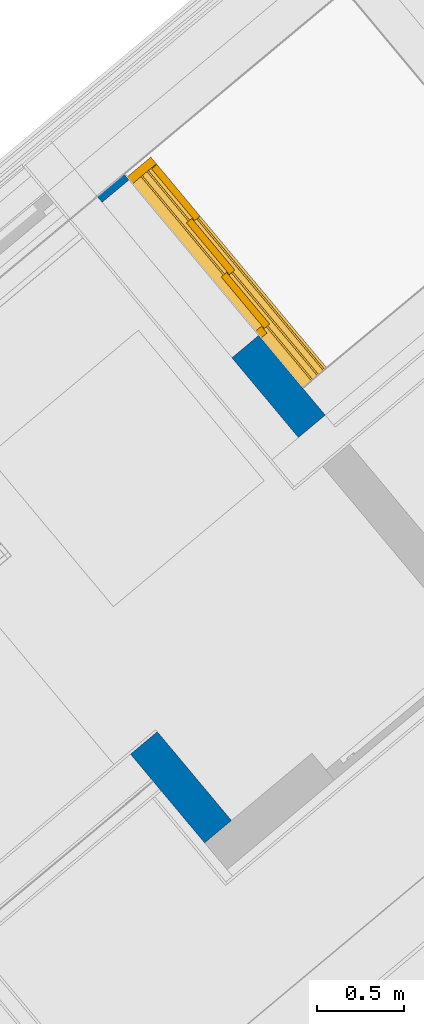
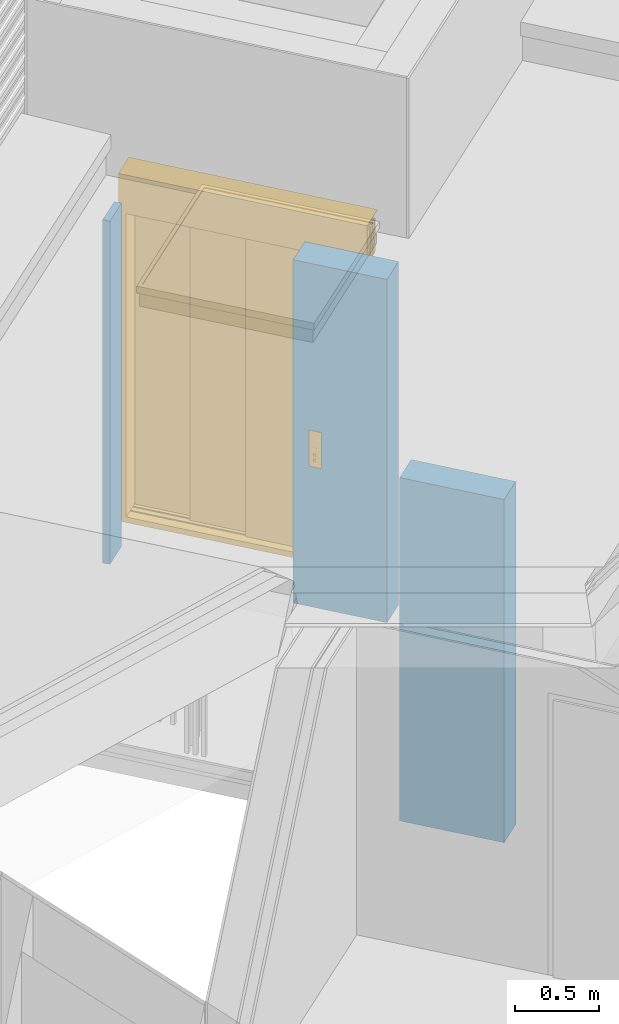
# One storey, part 5 of 50: 2 walls, 1 door, 1 opening.
"""IFC4 building model written with IfcOpenShell, lengths in metres."""

from ifc_helpers import new_model, entity, si_unit, converted_unit, derived_unit, direction, frame, origin_with_axes, place, context, subcontext, project, spatial, polygons, source, transform, mapped, material, type_object, element, fill, save


model = new_model("IFC4")

# Units and contexts
model_context = context("Model", 3, precision=1e-05, world=origin_with_axes(), true_north=direction((0.0, 1.0)))
body_context = subcontext(model_context, "Body", "Model", "MODEL_VIEW")
ifc_project = project(units=[si_unit("LENGTHUNIT", "METRE"), si_unit("AREAUNIT", "SQUARE_METRE"), si_unit("VOLUMEUNIT", "CUBIC_METRE"), converted_unit("PLANEANGLEUNIT", "DEGREE", entity("IfcPlaneAngleMeasure", 0.0174532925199), si_unit("PLANEANGLEUNIT", "RADIAN"), dimensions=[0, 0, 0, 0, 0, 0, 0]), converted_unit("TIMEUNIT", "Year", entity("IfcTimeMeasure", 31556926.0), si_unit("TIMEUNIT", "SECOND"), dimensions=[0, 0, 1, 0, 0, 0, 0]), si_unit("MASSUNIT", "GRAM", prefix="KILO"), si_unit("THERMODYNAMICTEMPERATUREUNIT", "DEGREE_CELSIUS"), si_unit("LUMINOUSINTENSITYUNIT", "LUMEN"), si_unit("ENERGYUNIT", "JOULE", prefix="MEGA"), derived_unit("THERMALCONDUCTANCEUNIT", [(si_unit("POWERUNIT", "WATT"), 1), (si_unit("LENGTHUNIT", "METRE"), -1), (si_unit("THERMODYNAMICTEMPERATUREUNIT", "KELVIN"), -1)]), derived_unit("SPECIFICHEATCAPACITYUNIT", [(si_unit("ENERGYUNIT", "JOULE"), 1), (si_unit("MASSUNIT", "GRAM", prefix="KILO"), -1), (si_unit("THERMODYNAMICTEMPERATUREUNIT", "KELVIN"), -1)]), derived_unit("MASSDENSITYUNIT", [(si_unit("MASSUNIT", "GRAM", prefix="KILO"), 1), (si_unit("VOLUMEUNIT", "CUBIC_METRE"), -1)])], contexts=[model_context])

# Site, building, storey
site_placement = place(None, frame((-0.00153261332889, -0.00661245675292, 0.0), z_axis=(0.0, 0.0, 1.0), x_axis=(1.0, 0.0, 0.0)))
site = spatial("IfcSite", under=ifc_project, at=site_placement, Name="Gelände", CompositionType="ELEMENT")
building_placement = place(site_placement, origin_with_axes())
building = spatial("IfcBuilding", under=site, at=building_placement, Name="Gebäude", CompositionType="ELEMENT")
storey_placement = place(building_placement, frame((0.0, 0.0, 8.66), z_axis=(0.0, 0.0, 1.0), x_axis=(1.0, 0.0, 0.0)))
storey = spatial("IfcBuildingStorey", under=building, at=storey_placement, Name="DG2", CompositionType="ELEMENT", Elevation=8.66)

# Wall
ifc_material = material(Name="Stahlbeton Wand")
wall_type = type_object("IfcWallType", Name="Stahlbeton Wand 200", PredefinedType="NOTDEFINED")
wall_1_placement = place(storey_placement, frame((1.08154200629, 22.1567813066, 0.0), z_axis=(0.0, 0.0, 1.0), x_axis=(-0.641209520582, 0.767365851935, 0.0)))
element("IfcWall", 1, at=wall_1_placement, inside=storey, type_object=wall_type, material=ifc_material, Name="Wand-003", PredefinedType="NOTDEFINED", context=body_context, shape_type="Tessellation", body=[
    polygons([(0.862227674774, 0.2, 0.0), (0.862227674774, 0.2, 2.49), (0.862228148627, 0.0, 2.49), (0.862228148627, 0.0, 0.0), (0.200077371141, 0.2, 0.0), (0.200077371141, 0.2, 2.49), (0.20000001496, 0.0, 2.49), (0.20000001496, 0.0, 0.0)], [[[1, 2, 3, 4]], [[2, 1, 5, 6]], [[3, 2, 6, 7]], [[7, 8, 4, 3]], [[1, 4, 8, 5]], [[6, 5, 8, 7]]], closed=True),
])

# Space
space_placement = place(storey_placement, frame((-0.969275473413, 24.9166386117, 0.22), z_axis=(0.0, 0.0, 1.0), x_axis=(0.641209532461, -0.767365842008, 0.0)))
space = spatial("IfcSpace", under=storey, at=space_placement, CompositionType="ELEMENT", PredefinedType="NOTDEFINED")

# Wall, opening, door
wall_2_placement = place(space_placement, frame((1.79533499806, 1.7051186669, -0.22), z_axis=(0.0, 0.0, 1.0), x_axis=(-0.999999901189, 0.000444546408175, 0.0)))
wall_2 = element("IfcWall", 2, at=wall_2_placement, inside=space, type_object=wall_type, material=ifc_material, Name="Wand-003", PredefinedType="NOTDEFINED", context=body_context, shape_type="Tessellation", body=[
    polygons([(1.75419055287, 0.2, 2.49), (1.75419055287, 0.0, 2.49), (1.80033514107, 0.0, 2.49), (1.80024623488, 0.2, 2.49), (1.75419055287, 0.0, 0.22), (1.75419055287, 0.2, 0.22), (1.75419055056, 0.0, 0.0), (1.80033514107, 0.0, 0.0), (1.80024623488, 0.2, 0.0), (1.75419055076, 0.2, 0.0)], [[[1, 2, 3, 4]], [[5, 2, 1, 6]], [[2, 5, 7, 8, 3]], [[4, 3, 8, 9]], [[6, 1, 4, 9, 10]], [[5, 6, 10, 7]], [[7, 10, 9, 8]]], closed=True),
    polygons([(0.594190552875, 0.0, 0.22), (0.594190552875, 0.0, 2.49), (0.0, 0.0, 2.49), (0.0, 0.0, 0.0), (0.594190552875, 0.0, 0.0), (0.594190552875, 0.2, 2.49), (0.594190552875, 0.2, 0.22), (0.0, 0.2, 2.49), (0.0, 0.2, 0.0), (0.594190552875, 0.2, 0.0)], [[[1, 2, 3, 4, 5]], [[6, 2, 1, 7]], [[2, 6, 8, 3]], [[4, 3, 8, 9]], [[10, 5, 4, 9]], [[7, 1, 5, 10]], [[6, 7, 10, 9, 8]]], closed=True),
])
opening_placement = place(wall_2_placement, frame((1.17419055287, 0.0, 0.22), z_axis=(0.0, 0.0, 1.0), x_axis=(1.0, 0.0, 0.0)))
opening = element("IfcOpeningElement", 3, at=opening_placement, cuts=wall_2, Name="Tür-003", context=body_context, identifier="Reference", shape_type="Tessellation", body=[
    polygons([(0.58, 1.2908631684, 2.35), (0.58, 1.2908631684, -0.22), (-0.58, 1.2908631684, -0.22), (-0.58, 1.2908631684, 2.35), (0.58, -1.0908631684, 2.35), (0.58, -1.0908631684, -0.22), (-0.58, -1.0908631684, -0.22), (-0.58, -1.0908631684, 2.35)], [[[1, 2, 3, 4]], [[5, 6, 2, 1]], [[6, 7, 3, 2]], [[7, 8, 4, 3]], [[8, 5, 1, 4]], [[7, 6, 5, 8]]], closed=True),
])
door_type = type_object("IfcDoorType", Name="Teleskoptür 26", OperationType="DOUBLE_DOOR_SLIDING", PredefinedType="NOTDEFINED")
shared_shape = source(origin_with_axes(), body_context, "Body", "Tessellation", [
    polygons([(0.975, 0.135, 2.2), (-0.6, 0.135, 2.2), (-0.6, 0.135, 2.238), (0.975, 0.135, 2.238), (0.975, 0.0, 2.2), (-0.6, 0.0, 2.2), (-0.6, 0.0, 2.48), (-0.6, 0.18, 2.48), (-0.6, 0.18, 2.477), (-0.6, 0.003, 2.477), (-0.6, 0.003, 2.203), (-0.6, 0.132, 2.203), (-0.6, 0.132, 2.238), (0.975, 0.132, 2.238), (0.975, 0.132, 2.203), (0.975, 0.003, 2.203), (0.975, 0.003, 2.477), (0.975, 0.18, 2.477), (0.975, 0.18, 2.48), (0.975, 0.0, 2.48)], [[[1, 2, 3, 4]], [[5, 6, 2, 1]], [[2, 6, 7, 8, 9, 10, 11, 12, 13, 3]], [[4, 3, 13, 14]], [[1, 4, 14, 15, 16, 17, 18, 19, 20, 5]], [[20, 7, 6, 5]], [[19, 8, 7, 20]], [[18, 9, 8, 19]], [[17, 10, 9, 18]], [[16, 11, 10, 17]], [[15, 12, 11, 16]], [[14, 13, 12, 15]]], closed=True),
    polygons([(0.975, 0.05, 2.203), (-0.6, 0.05, 2.203), (-0.6, 0.055, 2.203), (0.975, 0.055, 2.203), (0.975, 0.05, 2.44), (-0.6, 0.05, 2.44), (-0.6, 0.055, 2.44), (0.975, 0.055, 2.44)], [[[1, 2, 3, 4]], [[5, 6, 2, 1]], [[2, 6, 7, 3]], [[4, 3, 7, 8]], [[1, 4, 8, 5]], [[8, 7, 6, 5]]], closed=True),
    polygons([(0.975, 0.05, 2.43), (-0.6, 0.05, 2.43), (-0.6, 0.04, 2.43), (0.975, 0.04, 2.43), (0.975, 0.05, 2.37), (-0.6, 0.05, 2.37), (-0.6, 0.04, 2.37), (0.975, 0.04, 2.37)], [[[1, 2, 3, 4]], [[5, 6, 2, 1]], [[2, 6, 7, 3]], [[4, 3, 7, 8]], [[1, 4, 8, 5]], [[8, 7, 6, 5]]], closed=True),
    polygons([(0.975, 0.05, 2.3), (-0.6, 0.05, 2.3), (-0.6, 0.04, 2.3), (0.975, 0.04, 2.3), (0.975, 0.05, 2.26), (-0.6, 0.05, 2.26), (-0.6, 0.04, 2.26), (0.975, 0.04, 2.26)], [[[1, 2, 3, 4]], [[5, 6, 2, 1]], [[2, 6, 7, 3]], [[4, 3, 7, 8]], [[1, 4, 8, 5]], [[8, 7, 6, 5]]], closed=True),
    polygons([(0.975, 0.05, 2.37), (-0.6, 0.05, 2.37), (-0.6, 0.03, 2.37), (0.975, 0.03, 2.37), (0.975, 0.05, 2.3), (-0.6, 0.05, 2.3), (-0.6, 0.03, 2.3), (0.975, 0.03, 2.3)], [[[1, 2, 3, 4]], [[5, 6, 2, 1]], [[2, 6, 7, 3]], [[4, 3, 7, 8]], [[1, 4, 8, 5]], [[8, 7, 6, 5]]], closed=True),
    polygons([(0.975, 0.095, 2.203), (-0.6, 0.095, 2.203), (-0.6, 0.1, 2.203), (0.975, 0.1, 2.203), (0.975, 0.095, 2.44), (-0.6, 0.095, 2.44), (-0.6, 0.1, 2.44), (0.975, 0.1, 2.44)], [[[1, 2, 3, 4]], [[5, 6, 2, 1]], [[2, 6, 7, 3]], [[4, 3, 7, 8]], [[1, 4, 8, 5]], [[8, 7, 6, 5]]], closed=True),
    polygons([(0.975, 0.095, 2.43), (-0.6, 0.095, 2.43), (-0.6, 0.085, 2.43), (0.975, 0.085, 2.43), (0.975, 0.095, 2.37), (-0.6, 0.095, 2.37), (-0.6, 0.085, 2.37), (0.975, 0.085, 2.37)], [[[1, 2, 3, 4]], [[5, 6, 2, 1]], [[2, 6, 7, 3]], [[4, 3, 7, 8]], [[1, 4, 8, 5]], [[8, 7, 6, 5]]], closed=True),
    polygons([(0.975, 0.095, 2.3), (-0.6, 0.095, 2.3), (-0.6, 0.085, 2.3), (0.975, 0.085, 2.3), (0.975, 0.095, 2.26), (-0.6, 0.095, 2.26), (-0.6, 0.085, 2.26), (0.975, 0.085, 2.26)], [[[1, 2, 3, 4]], [[5, 6, 2, 1]], [[2, 6, 7, 3]], [[4, 3, 7, 8]], [[1, 4, 8, 5]], [[8, 7, 6, 5]]], closed=True),
    polygons([(0.975, 0.095, 2.37), (-0.6, 0.095, 2.37), (-0.6, 0.075, 2.37), (0.975, 0.075, 2.37), (0.975, 0.095, 2.3), (-0.6, 0.095, 2.3), (-0.6, 0.075, 2.3), (0.975, 0.075, 2.3)], [[[1, 2, 3, 4]], [[5, 6, 2, 1]], [[2, 6, 7, 3]], [[4, 3, 7, 8]], [[1, 4, 8, 5]], [[8, 7, 6, 5]]], closed=True),
    polygons([(0.975, 0.14, 2.203), (-0.6, 0.14, 2.203), (-0.6, 0.145, 2.203), (0.975, 0.145, 2.203), (0.975, 0.14, 2.44), (-0.6, 0.14, 2.44), (-0.6, 0.145, 2.44), (0.975, 0.145, 2.44)], [[[1, 2, 3, 4]], [[5, 6, 2, 1]], [[2, 6, 7, 3]], [[4, 3, 7, 8]], [[1, 4, 8, 5]], [[8, 7, 6, 5]]], closed=True),
    polygons([(0.975, 0.14, 2.43), (-0.6, 0.14, 2.43), (-0.6, 0.13, 2.43), (0.975, 0.13, 2.43), (0.975, 0.14, 2.37), (-0.6, 0.14, 2.37), (-0.6, 0.13, 2.37), (0.975, 0.13, 2.37)], [[[1, 2, 3, 4]], [[5, 6, 2, 1]], [[2, 6, 7, 3]], [[4, 3, 7, 8]], [[1, 4, 8, 5]], [[8, 7, 6, 5]]], closed=True),
    polygons([(0.975, 0.14, 2.3), (-0.6, 0.14, 2.3), (-0.6, 0.13, 2.3), (0.975, 0.13, 2.3), (0.975, 0.14, 2.26), (-0.6, 0.14, 2.26), (-0.6, 0.13, 2.26), (0.975, 0.13, 2.26)], [[[1, 2, 3, 4]], [[5, 6, 2, 1]], [[2, 6, 7, 3]], [[4, 3, 7, 8]], [[1, 4, 8, 5]], [[8, 7, 6, 5]]], closed=True),
    polygons([(0.975, 0.14, 2.37), (-0.6, 0.14, 2.37), (-0.6, 0.12, 2.37), (0.975, 0.12, 2.37), (0.975, 0.14, 2.3), (-0.6, 0.14, 2.3), (-0.6, 0.12, 2.3), (0.975, 0.12, 2.3)], [[[1, 2, 3, 4]], [[5, 6, 2, 1]], [[2, 6, 7, 3]], [[4, 3, 7, 8]], [[1, 4, 8, 5]], [[8, 7, 6, 5]]], closed=True),
    polygons([(0.975, 0.0, 0.0), (-0.6, 0.0, 0.0), (-0.6, 0.0, -0.04), (0.975, 0.0, -0.04), (0.975, 0.065, 0.0), (-0.6, 0.065, 0.0), (-0.6, 0.065, -0.01), (-0.6, 0.075, -0.01), (-0.6, 0.075, 0.0), (-0.6, 0.11, 0.0), (-0.6, 0.11, -0.01), (-0.6, 0.12, -0.01), (-0.6, 0.12, 0.0), (-0.6, 0.155, 0.0), (-0.6, 0.155, -0.01), (-0.6, 0.165, -0.01), (-0.6, 0.165, 0.0), (-0.6, 0.18, 0.0), (-0.6, 0.18, -0.04), (0.975, 0.18, -0.04), (0.975, 0.18, 0.0), (0.975, 0.165, 0.0), (0.975, 0.165, -0.01), (0.975, 0.155, -0.01), (0.975, 0.155, 0.0), (0.975, 0.12, 0.0), (0.975, 0.12, -0.01), (0.975, 0.11, -0.01), (0.975, 0.11, 0.0), (0.975, 0.075, 0.0), (0.975, 0.075, -0.01), (0.975, 0.065, -0.01)], [[[1, 2, 3, 4]], [[5, 6, 2, 1]], [[2, 6, 7, 8, 9, 10, 11, 12, 13, 14, 15, 16, 17, 18, 19, 3]], [[4, 3, 19, 20]], [[1, 4, 20, 21, 22, 23, 24, 25, 26, 27, 28, 29, 30, 31, 32, 5]], [[32, 7, 6, 5]], [[31, 8, 7, 32]], [[30, 9, 8, 31]], [[29, 10, 9, 30]], [[28, 11, 10, 29]], [[27, 12, 11, 28]], [[26, 13, 12, 27]], [[25, 14, 13, 26]], [[24, 15, 14, 25]], [[23, 16, 15, 24]], [[22, 17, 16, 23]], [[21, 18, 17, 22]], [[20, 19, 18, 21]]], closed=True),
    polygons([(0.55, 0.0, 0.0), (0.55, 0.0, 2.2), (0.55, 0.045, 2.2), (0.55, 0.045, 0.0), (0.6, 0.0, 0.0), (0.6, 0.0, 2.2), (0.6, 0.045, 2.2), (0.6, 0.045, 0.0)], [[[1, 2, 3, 4]], [[5, 6, 2, 1]], [[2, 6, 7, 3]], [[4, 3, 7, 8]], [[1, 4, 8, 5]], [[8, 7, 6, 5]]], closed=True),
    polygons([(-0.6, 0.0, 0.0), (-0.6, 0.0, 2.2), (-0.6, 0.18, 2.2), (-0.6, 0.18, 0.0), (-0.55, 0.0, 0.0), (-0.55, 0.0, 2.2), (-0.55, 0.18, 2.2), (-0.55, 0.18, 0.0)], [[[1, 2, 3, 4]], [[5, 6, 2, 1]], [[2, 6, 7, 3]], [[4, 3, 7, 8]], [[1, 4, 8, 5]], [[8, 7, 6, 5]]], closed=True),
    polygons([(0.68, -0.2, 0.8), (0.76, -0.2, 0.8), (0.76, -0.203, 0.8), (0.68, -0.203, 0.8), (0.68, -0.2, 1.06), (0.76, -0.2, 1.06), (0.69, -0.2, 1.03), (0.69, -0.2, 0.94), (0.75, -0.2, 0.94), (0.75, -0.2, 1.03), (0.71, -0.2, 0.84), (0.73, -0.2, 0.84), (0.73, -0.2, 0.86), (0.71, -0.2, 0.86), (0.71, -0.2, 0.88), (0.73, -0.2, 0.88), (0.73, -0.2, 0.9), (0.71, -0.2, 0.9), (0.76, -0.203, 1.06), (0.68, -0.203, 1.06), (0.69, -0.203, 1.03), (0.75, -0.203, 1.03), (0.75, -0.203, 0.94), (0.69, -0.203, 0.94), (0.71, -0.203, 0.84), (0.71, -0.203, 0.86), (0.73, -0.203, 0.86), (0.73, -0.203, 0.84), (0.71, -0.203, 0.88), (0.71, -0.203, 0.9), (0.73, -0.203, 0.9), (0.73, -0.203, 0.88)], [[[1, 2, 3, 4]], [[1, 5, 6, 2], [7, 8, 9, 10], [11, 12, 13, 14], [15, 16, 17, 18]], [[2, 6, 19, 3]], [[4, 3, 19, 20], [21, 22, 23, 24], [25, 26, 27, 28], [29, 30, 31, 32]], [[5, 1, 4, 20]], [[6, 5, 20, 19]], [[8, 7, 21, 24]], [[9, 8, 24, 23]], [[10, 9, 23, 22]], [[7, 10, 22, 21]], [[12, 11, 25, 28]], [[13, 12, 28, 27]], [[14, 13, 27, 26]], [[11, 14, 26, 25]], [[16, 15, 29, 32]], [[17, 16, 32, 31]], [[18, 17, 31, 30]], [[15, 18, 30, 29]]], closed=True),
    polygons([(0.69, -0.2, 0.94), (0.75, -0.2, 0.94), (0.75, -0.2025, 0.94), (0.69, -0.2025, 0.94), (0.69, -0.2, 1.03), (0.75, -0.2, 1.03), (0.75, -0.2025, 1.03), (0.69, -0.2025, 1.03)], [[[1, 2, 3, 4]], [[1, 5, 6, 2]], [[2, 6, 7, 3]], [[4, 3, 7, 8]], [[5, 1, 4, 8]], [[6, 5, 8, 7]]], closed=True),
    polygons([(0.704, -0.203, 1.005), (0.71, -0.203, 1.021), (0.716, -0.203, 1.005)], [[[1, 2, 3]]], closed=False),
    polygons([(0.73, -0.203, 1.005), (0.724, -0.203, 1.021), (0.736, -0.203, 1.021)], [[[1, 2, 3]]], closed=False),
    polygons([(0.717272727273, -0.2035, 0.982), (0.717272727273, -0.2035, 0.971636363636), (0.715909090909, -0.2035, 0.970272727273), (0.714545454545, -0.2035, 0.971636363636), (0.714545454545, -0.2035, 0.982), (0.715909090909, -0.2035, 0.983363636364)], [[[1, 2, 3, 4, 5, 6]]], closed=False),
    polygons([(0.717272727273, -0.2035, 0.968363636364), (0.717272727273, -0.2035, 0.958), (0.715909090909, -0.2035, 0.956636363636), (0.714545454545, -0.2035, 0.958), (0.714545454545, -0.2035, 0.968363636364), (0.715909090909, -0.2035, 0.969727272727)], [[[1, 2, 3, 4, 5, 6]]], closed=False),
    polygons([(0.736090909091, -0.2035, 0.982272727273), (0.725727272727, -0.2035, 0.982272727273), (0.724363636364, -0.2035, 0.983636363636), (0.725727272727, -0.2035, 0.985), (0.736090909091, -0.2035, 0.985), (0.737454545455, -0.2035, 0.983636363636)], [[[1, 2, 3, 4, 5, 6]]], closed=False),
    polygons([(0.739090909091, -0.2035, 0.982), (0.739090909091, -0.2035, 0.971636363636), (0.737727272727, -0.2035, 0.970272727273), (0.736363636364, -0.2035, 0.971636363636), (0.736363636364, -0.2035, 0.982), (0.737727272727, -0.2035, 0.983363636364)], [[[1, 2, 3, 4, 5, 6]]], closed=False),
    polygons([(0.736090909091, -0.2035, 0.968636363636), (0.725727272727, -0.2035, 0.968636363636), (0.724363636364, -0.2035, 0.97), (0.725727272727, -0.2035, 0.971363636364), (0.736090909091, -0.2035, 0.971363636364), (0.737454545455, -0.2035, 0.97)], [[[1, 2, 3, 4, 5, 6]]], closed=False),
    polygons([(0.725454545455, -0.2035, 0.968363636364), (0.725454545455, -0.2035, 0.958), (0.724090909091, -0.2035, 0.956636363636), (0.722727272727, -0.2035, 0.958), (0.722727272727, -0.2035, 0.968363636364), (0.724090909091, -0.2035, 0.969727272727)], [[[1, 2, 3, 4, 5, 6]]], closed=False),
    polygons([(0.736090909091, -0.2035, 0.955), (0.725727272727, -0.2035, 0.955), (0.724363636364, -0.2035, 0.956363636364), (0.725727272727, -0.2035, 0.957727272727), (0.736090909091, -0.2035, 0.957727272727), (0.737454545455, -0.2035, 0.956363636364)], [[[1, 2, 3, 4, 5, 6]]], closed=False),
    polygons([(0.73, -0.2, 0.84), (0.71, -0.2, 0.84), (0.71, -0.2, 0.86), (0.73, -0.2, 0.86), (0.730000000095, -0.2015, 0.83999999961), (0.70999999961, -0.2015, 0.83999999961), (0.70999999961, -0.2015, 0.860000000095), (0.730000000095, -0.2015, 0.860000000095), (0.728599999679, -0.202900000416, 0.841400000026), (0.711400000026, -0.202900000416, 0.841400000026), (0.711400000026, -0.202900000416, 0.858599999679), (0.728599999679, -0.202900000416, 0.858599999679)], [[[1, 2, 3, 4]], [[2, 1, 5, 6]], [[3, 2, 6, 7]], [[4, 3, 7, 8]], [[1, 4, 8, 5]], [[6, 5, 9, 10]], [[7, 6, 10, 11]], [[8, 7, 11, 12]], [[5, 8, 12, 9]], [[11, 10, 9, 12]]], closed=True),
    polygons([(0.725, -0.203, 0.855), (0.72, -0.203, 0.844), (0.715, -0.203, 0.855)], [[[1, 2, 3]]], closed=False),
    polygons([(0.73, -0.2, 0.88), (0.71, -0.2, 0.88), (0.71, -0.2, 0.9), (0.73, -0.2, 0.9), (0.730000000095, -0.2015, 0.87999999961), (0.70999999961, -0.2015, 0.87999999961), (0.70999999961, -0.2015, 0.900000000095), (0.730000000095, -0.2015, 0.900000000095), (0.728599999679, -0.202900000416, 0.881400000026), (0.711400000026, -0.202900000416, 0.881400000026), (0.711400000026, -0.202900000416, 0.898599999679), (0.728599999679, -0.202900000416, 0.898599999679)], [[[1, 2, 3, 4]], [[2, 1, 5, 6]], [[3, 2, 6, 7]], [[4, 3, 7, 8]], [[1, 4, 8, 5]], [[6, 5, 9, 10]], [[7, 6, 10, 11]], [[8, 7, 11, 12]], [[5, 8, 12, 9]], [[11, 10, 9, 12]]], closed=True),
    polygons([(0.725, -0.203, 0.885), (0.715, -0.203, 0.885), (0.72, -0.203, 0.896)], [[[1, 2, 3]]], closed=False),
    polygons([(-0.16, 0.14, 0.003), (-0.545, 0.14, 0.003), (-0.545, 0.18, 0.003), (-0.16, 0.18, 0.003), (-0.16, 0.14, 2.2), (-0.545, 0.14, 2.2), (-0.545, 0.18, 2.2), (-0.16, 0.18, 2.2)], [[[1, 2, 3, 4]], [[1, 5, 6, 2]], [[2, 6, 7, 3]], [[4, 3, 7, 8]], [[5, 1, 4, 8]], [[6, 5, 8, 7]]], closed=True),
    polygons([(0.205, 0.095, 0.003), (-0.18, 0.095, 0.003), (-0.18, 0.135, 0.003), (0.205, 0.135, 0.003), (0.205, 0.095, 2.2), (-0.18, 0.095, 2.2), (-0.18, 0.135, 2.2), (0.205, 0.135, 2.2)], [[[1, 2, 3, 4]], [[1, 5, 6, 2]], [[2, 6, 7, 3]], [[4, 3, 7, 8]], [[5, 1, 4, 8]], [[6, 5, 8, 7]]], closed=True),
    polygons([(0.57, 0.05, 0.003), (0.185, 0.05, 0.003), (0.185, 0.09, 0.003), (0.57, 0.09, 0.003), (0.57, 0.05, 2.2), (0.185, 0.05, 2.2), (0.185, 0.09, 2.2), (0.57, 0.09, 2.2)], [[[1, 2, 3, 4]], [[1, 5, 6, 2]], [[2, 6, 7, 3]], [[4, 3, 7, 8]], [[5, 1, 4, 8]], [[6, 5, 8, 7]]], closed=True),
])
door_placement = place(opening_placement, frame((0.55, 0.0, 0.0), z_axis=(0.0, 0.0, 1.0), x_axis=(-1.0, 0.0, 0.0)))
door = element("IfcDoor", 4, at=door_placement, inside=space, type_object=door_type, Name="Tür-003", OverallHeight=2.57, OverallWidth=1.16, PredefinedType="NOTDEFINED", context=body_context, shape_type="MappedRepresentation", body=[
    mapped(shared_shape, transform((0.55, 0.0, 0.0))),
])
fill(opening, door)

save(model, "model.ifc")
